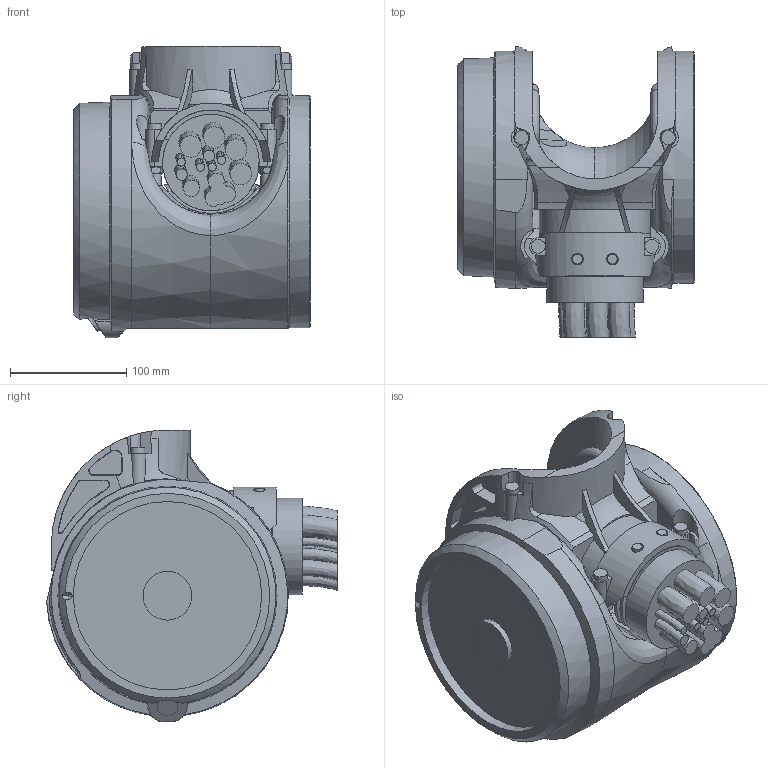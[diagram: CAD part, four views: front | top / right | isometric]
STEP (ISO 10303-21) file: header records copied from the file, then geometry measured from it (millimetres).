
FILE_DESCRIPTION (( 'STEP AP214' ), '1' );
FILE_NAME ('IRB6740-LID_270kg-280_OC_02_LINK06_CABLE.step', '2026-05-07T13:15:08', ( '' ), ( '' ), 'SwSTEP 2.0', 'SolidWorks 2024', '' );
FILE_SCHEMA (( 'AUTOMOTIVE_DESIGN' ));
Length unit declared in the file: millimetre
Products named in the file (1): IRB6740-LID_270kg-280_OC_02_LINK06_CABLE
Bounding box: 203.5 x 249.95 x 251.06 mm (x, y, z)
Volume: 4235215.8 mm3; surface area: 375665.1 mm2
Topology: 2 solids, 2 shells, 479 faces, 1284 edges, 834 vertices
Faces by surface type: plane 182, cylinder 124, cone 104, bspline 45, torus 24
Full cylindrical faces by diameter (mm): 4.4 x2, 5 x4, 6 x2, 8.5 x4, 9.9 x2, 10 x2, 10.2 x11, 12 x8, 17.9 x1, 42 x1, 83 x1, 162 x1, 200 x1
Entity records: 25339 total; most frequent: CARTESIAN_POINT 9369, ORIENTED_EDGE 2316, DIRECTION 1970, EDGE_CURVE 1158, VERTEX_POINT 801, AXIS2_PLACEMENT_3D 795, EDGE_LOOP 605, FACE_OUTER_BOUND 530
